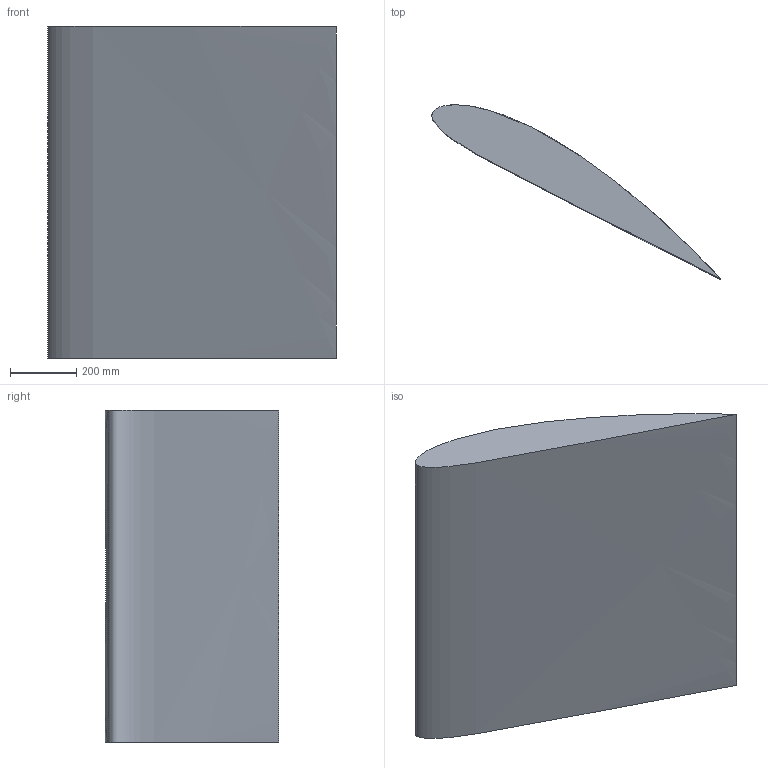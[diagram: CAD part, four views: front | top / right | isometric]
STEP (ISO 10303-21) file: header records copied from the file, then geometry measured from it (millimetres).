
FILE_DESCRIPTION (( 'STEP AP203' ), '1' );
FILE_NAME ('30 degree.STEP', '2018-12-17T17:03:54', ( '' ), ( '' ), 'SwSTEP 2.0', 'SolidWorks 2017', '' );
FILE_SCHEMA (( 'CONFIG_CONTROL_DESIGN' ));
Length unit declared in the file: millimetre
Products named in the file (1): 30 degree
Bounding box: 868.15 x 524.06 x 1000 mm (x, y, z)
Volume: 104284527 mm3; surface area: 2270026.8 mm2
Topology: 1 solids, 1 shells, 4 faces, 6 edges, 4 vertices
Faces by surface type: bspline 2, plane 2
Entity records: 559 total; most frequent: CARTESIAN_POINT 421, ORIENTED_EDGE 12, DIRECTION 8, PERSON_AND_ORGANIZATION 8, EDGE_CURVE 6, CC_DESIGN_PERSON_AND_ORGANIZATION_ASSIGNMENT 5, COORDINATED_UNIVERSAL_TIME_OFFSET 5, CALENDAR_DATE 5
